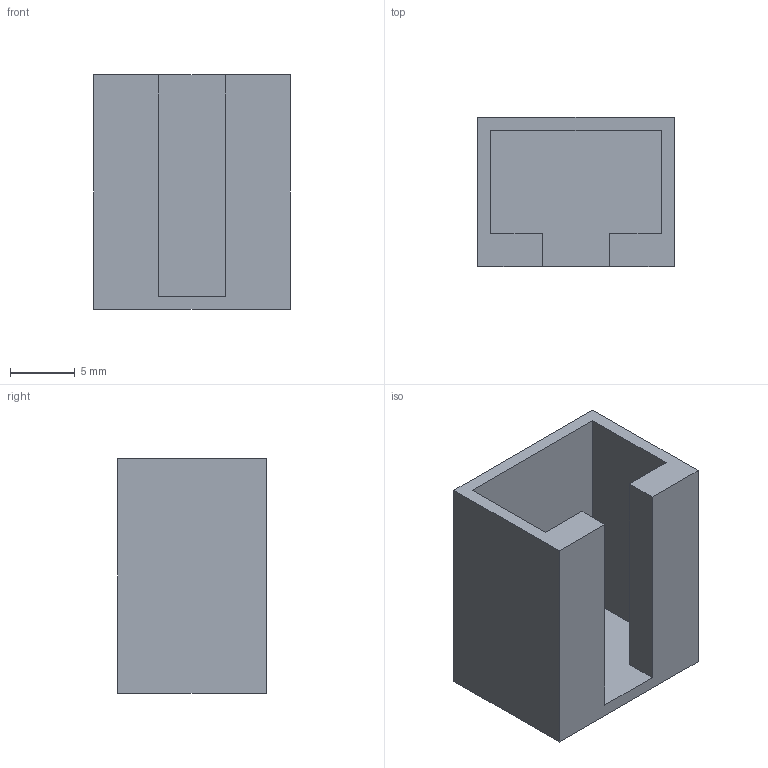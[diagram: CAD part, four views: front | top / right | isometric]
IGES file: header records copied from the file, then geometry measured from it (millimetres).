
Start section:  PTC IGES file: j4a-cn3.igs
Global section: file name: j4a-cn3.igs; native system: Pro/ENGINEER by Parametric Technology Corporation; preprocessor: 2010160; author: CV86875; organization: Unknown; date: 20121031.193706; units: millimetre
Bounding box: 15.2 x 11.5 x 18.1 mm (x, y, z)
Volume: 1135.8 mm3; surface area: 1948.8 mm2
Topology: 1 solids, 1 shells, 14 faces, 36 edges, 24 vertices
Faces by surface type: bspline 14
